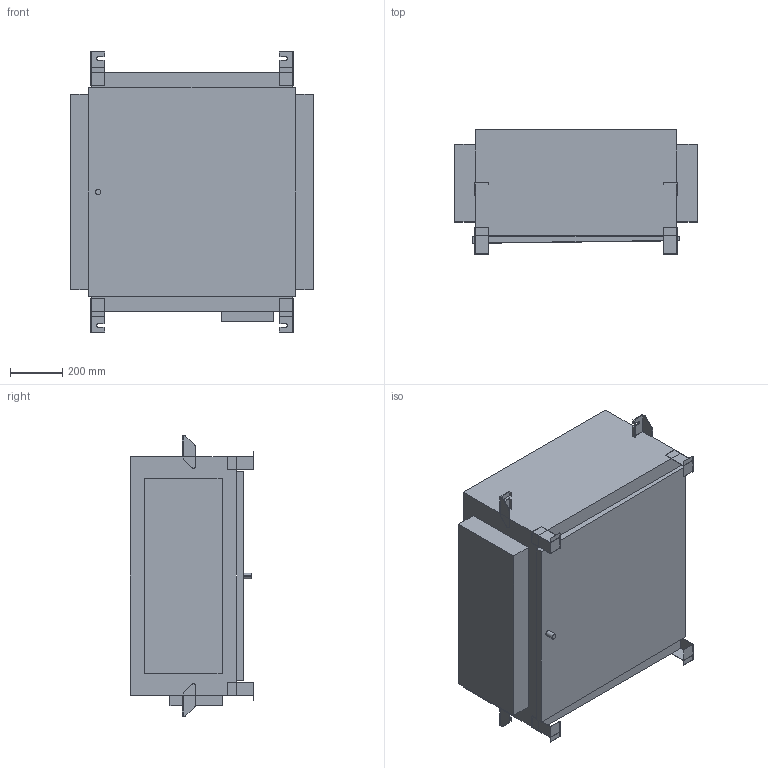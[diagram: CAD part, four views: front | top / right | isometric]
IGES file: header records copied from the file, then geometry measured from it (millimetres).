
Start section: SolidWorks IGES file using analytic representation for surfaces
Bounding box: 929 x 473.8 x 1073.6 mm (x, y, z)
Surface area: 4651933 mm2 (no closed solid volume)
Topology: 0 solids, 0 shells, 198 faces, 1400 edges, 1400 vertices
Faces by surface type: bspline 168, revolution 30
